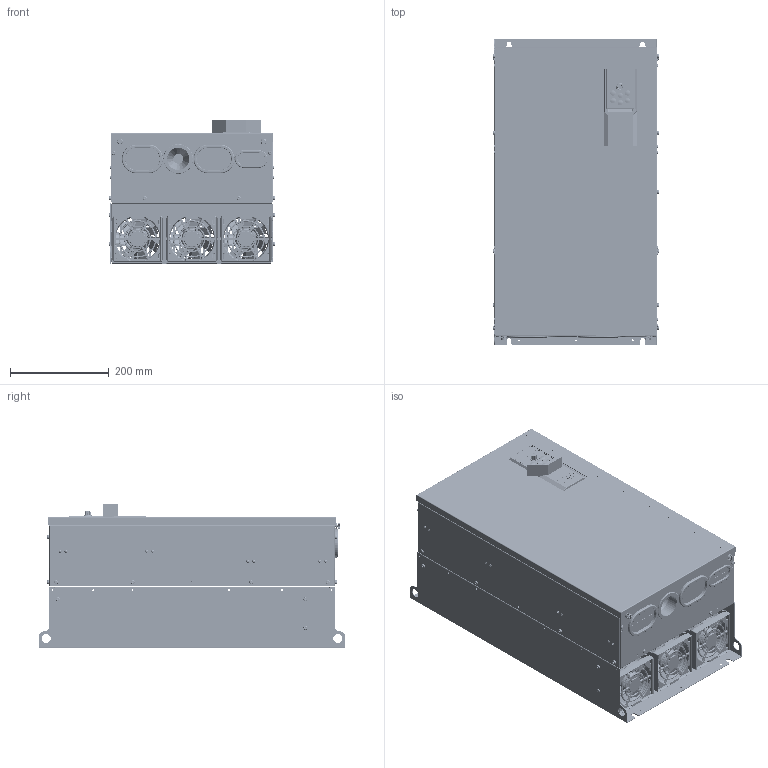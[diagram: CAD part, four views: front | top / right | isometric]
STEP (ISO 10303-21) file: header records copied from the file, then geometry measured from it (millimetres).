
FILE_DESCRIPTION((''),'2;1');
FILE_NAME('AD800-D6-DRIVE_ASM','2024-12-11T13:51:18',('Optimus Drive'),(''),'CREO PARAMETRIC BY PTC INC, 2018100','CREO PARAMETRIC BY PTC INC, 2018100','');
FILE_SCHEMA(('CONFIG_CONTROL_DESIGN','GEOMETRIC_VALIDATION_PROPERTIES_MIM'));
Products named in the file (74): D6-MECHANICAL-PART; E0400071; M0204014; M0204023; M0204033; RIVETING-NUT-4_; M0202008; M0202010; M0202003; M0202001; M3-SPRING; M3-WASHER; M0202001_ASM; D6-FASTEN_ASM; M0100015; M0202014; M0104021; FAN9238; FAN-ASM-9238_ASM; M0104030; M0104149; E0100736; E0400142; E0400150; E0400073; E0400116; E0400023; E0100736_ASM; E0200416; M0104143; E0400117; E0100735; 0603; SOT-23; SO-14; E0300000; SOD-6; E0300008; LQFP64; 1206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
Assembly tree (449 placements, depth 5):
  AD800-D6-DRIVE_ASM
    D6-MECHANICAL-PART
    E0400071
    M0204014
    M0204023  x2
    M0204033
    D6-FASTEN_ASM
      RIVETING-NUT-4_  x20
      M0202008  x23
      M0202010  x2
      M0202003  x14
      M0202001_ASM
        M0202001
        M3-SPRING
        M3-WASHER
    M0100015  x2
    M0202014  x2
    FAN-ASM-9238_ASM  x3
      M0104021
      FAN9238
    M0104030
    CU04-ASSY_ASM
      M0104149
      E0100736_ASM
        E0100736
        E0400142
        E0400150
        E0400073  x2
        E0400116
        E0400023
      E0200416
      M0104143
      E0400117
      E0100735_ASM
        E0100735
        0603  x193
        SOT-23  x51
        SO-14  x2
        E0300000
        SOD-6  x4
        E0300008  x2
        LQFP64
        E0400116
        1206  x32
        SMD3215-2P
        0805  x20
        SO-8  x2
        P3_5_3_2_
        SMM0207  x2
        SOT-223
        TO252
        SC70-6
        1210  x2
        E0400035
        E0400118
        E0400023
        E0400011
      EXTERNAL_KEYPAD_ASM
        M0104016
        M0104018
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Bounding box: 335.7 x 620 x 293 mm (x, y, z)
Volume: 2737354.5 mm3; surface area: 2899920.5 mm2
Topology: 493 solids, 563 shells, 33794 faces, 88238 edges, 56529 vertices
Faces by surface type: plane 20455, cylinder 7477, bspline 1960, extrusion 1593, cone 1135, torus 725, sphere 449
Entity records: 915459 total; most frequent: CARTESIAN_POINT 199260, ORIENTED_EDGE 112640, DIRECTION 98857, EDGE_CURVE 56482, PRESENTATION_STYLE_ASSIGNMENT 48153, STYLED_ITEM 44847, VECTOR 41667, CURVE_STYLE 40268
